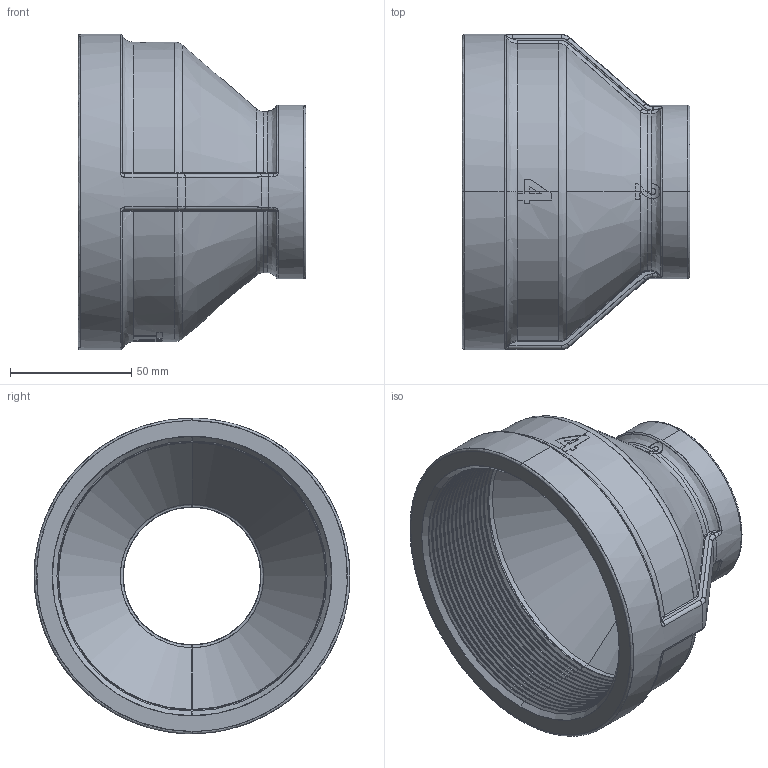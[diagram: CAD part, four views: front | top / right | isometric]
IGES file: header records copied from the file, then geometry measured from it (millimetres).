
Start section: SolidWorks IGES file using analytic representation for surfaces
Global section: file name: C:\Users\Joel Rosa\Desktop\Tubulação\12-32-OK\12-32-XXX.IGS; native system: SolidWorks 2011; preprocessor: SolidWorks 2011; author: Joel Rosa; date: 121209.022722; units: millimetre
Bounding box: 94 x 130.2 x 130.2 mm (x, y, z)
Surface area: 80057.2 mm2 (no closed solid volume)
Topology: 0 solids, 0 shells, 490 faces, 3954 edges, 3954 vertices
Faces by surface type: bspline 329, revolution 161
